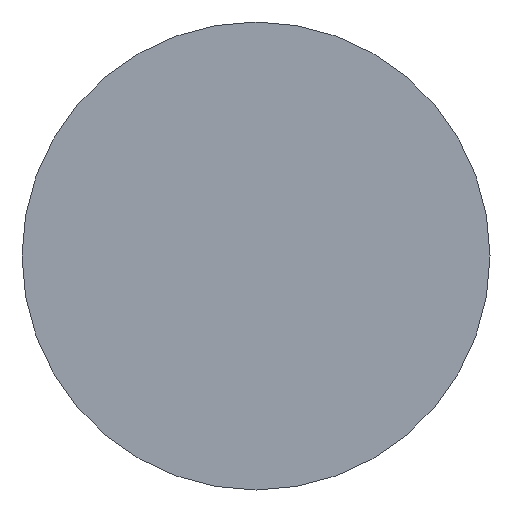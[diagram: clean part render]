
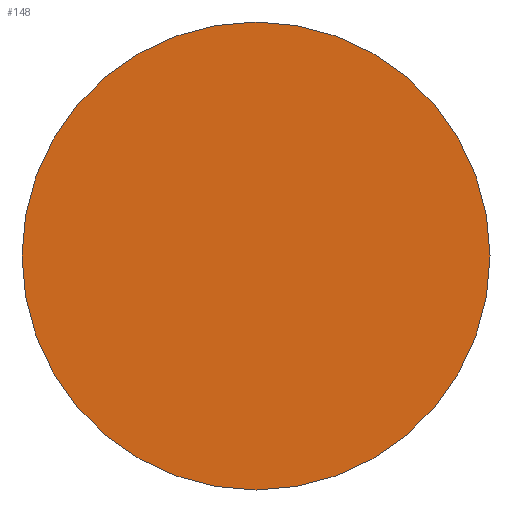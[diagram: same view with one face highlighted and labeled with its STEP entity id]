
A CAD part, front view. The second image highlights one B-rep face of the part: STEP entity #148.
In plain terms, the highlighted planar face has unit normal (0, -1, 0).
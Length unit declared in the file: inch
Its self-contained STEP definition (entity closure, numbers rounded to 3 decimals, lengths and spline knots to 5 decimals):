
#4 = CARTESIAN_POINT ( 'NONE',  ( 0., 0., 0. ) ) ;
#8 = CARTESIAN_POINT ( 'NONE',  ( 0., 0., -0.15 ) ) ;
#11 = DIRECTION ( 'NONE',  ( 0., 1., 0. ) ) ;
#18 = DIRECTION ( 'NONE',  ( 0., 1., 0. ) ) ;
#44 = EDGE_CURVE ( 'NONE', #118, #135, #171, .T. ) ;
#54 = AXIS2_PLACEMENT_3D ( 'NONE', #107, #11, #143 ) ;
#55 = CARTESIAN_POINT ( 'NONE',  ( 0., 0., 0.15 ) ) ;
#59 = ORIENTED_EDGE ( 'NONE', *, *, #44, .F. ) ;
#63 = AXIS2_PLACEMENT_3D ( 'NONE', #4, #18, #149 ) ;
#66 = DIRECTION ( 'NONE',  ( 0., 1., 0. ) ) ;
#107 = CARTESIAN_POINT ( 'NONE',  ( 0., 0., 0. ) ) ;
#118 = VERTEX_POINT ( 'NONE', #8 ) ;
#121 = ORIENTED_EDGE ( 'NONE', *, *, #229, .F. ) ;
#135 = VERTEX_POINT ( 'NONE', #55 ) ;
#143 = DIRECTION ( 'NONE',  ( 0., 0., 1. ) ) ;
#148 = ADVANCED_FACE ( 'NONE', ( #165 ), #174, .F. ) ;
#149 = DIRECTION ( 'NONE',  ( 0., 0., 1. ) ) ;
#158 = CIRCLE ( 'NONE', #54, 0.15 ) ;
#165 = FACE_OUTER_BOUND ( 'NONE', #247, .T. ) ;
#171 = CIRCLE ( 'NONE', #246, 0.15 ) ;
#174 = PLANE ( 'NONE',  #63 ) ;
#210 = CARTESIAN_POINT ( 'NONE',  ( 0., 0., 0. ) ) ;
#229 = EDGE_CURVE ( 'NONE', #135, #118, #158, .T. ) ;
#236 = DIRECTION ( 'NONE',  ( 0., 0., 1. ) ) ;
#246 = AXIS2_PLACEMENT_3D ( 'NONE', #210, #66, #236 ) ;
#247 = EDGE_LOOP ( 'NONE', ( #59, #121 ) ) ;
